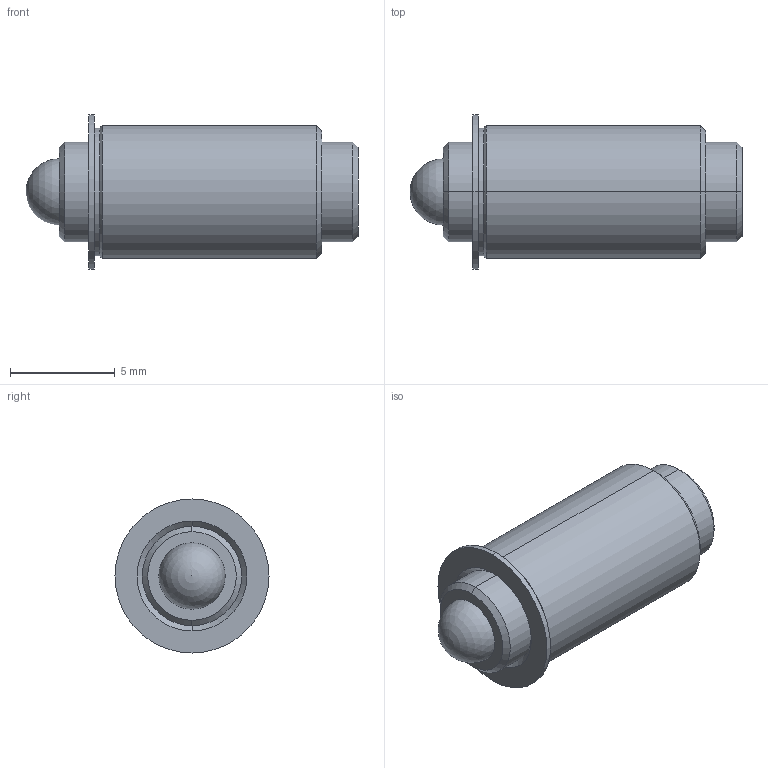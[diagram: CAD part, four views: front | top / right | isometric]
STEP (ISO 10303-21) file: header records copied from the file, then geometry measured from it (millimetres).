
FILE_DESCRIPTION (( 'STEP AP214' ), '1' );
FILE_NAME ('TSB187-100-625_437.STEP', '2013-03-13T13:13:26', ( 'workpc' ), ( 'Microsoft' ), 'SwSTEP 2.0', 'SolidWorks 2013', '' );
FILE_SCHEMA (( 'AUTOMOTIVE_DESIGN' ));
Length unit declared in the file: inch
Products named in the file (1): TSB187-100-625_437
Bounding box: 15.88 x 7.37 x 7.37 mm (x, y, z)
Surface area: 556.6 mm2 (no closed solid volume)
Topology: 0 solids, 3 shells, 33 faces, 77 edges, 49 vertices
Faces by surface type: cone 12, plane 11, cylinder 8, sphere 2
Entity records: 1358 total; most frequent: DIRECTION 174, CARTESIAN_POINT 152, ORIENTED_EDGE 132, EDGE_CURVE 72, AXIS2_PLACEMENT_3D 68, VERTEX_POINT 46, EDGE_LOOP 38, VECTOR 38
